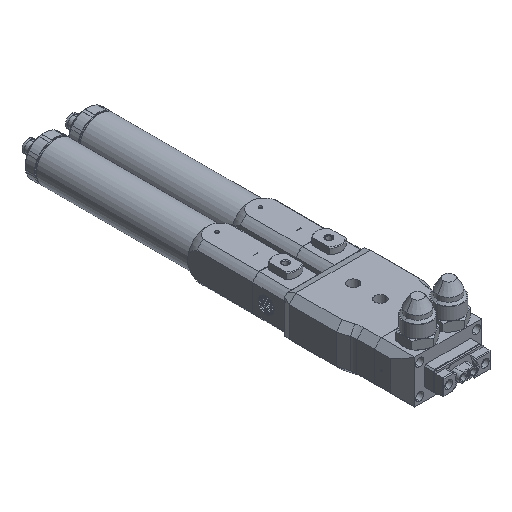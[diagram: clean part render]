
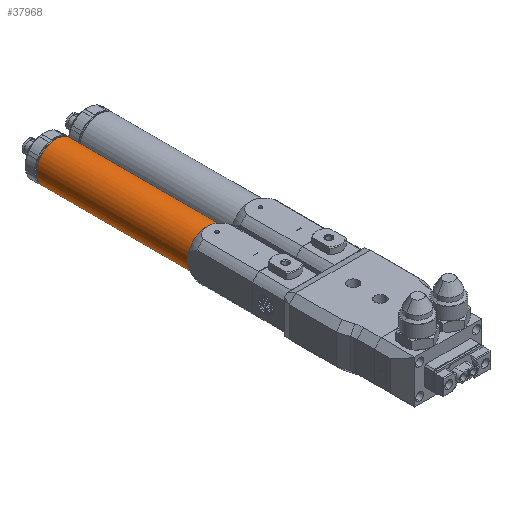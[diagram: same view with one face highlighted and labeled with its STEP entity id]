
A CAD part, isometric view. The second image highlights one B-rep face of the part: STEP entity #37968.
In plain terms, the highlighted cylindrical face has radius 14.5 mm (diameter 29 mm), a full revolution.
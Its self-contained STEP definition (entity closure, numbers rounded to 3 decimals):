
#593 = EDGE_CURVE ( 'NONE', #46082, #18058, #23000, .T. ) ;
#2161 = ORIENTED_EDGE ( 'NONE', *, *, #21573, .T. ) ;
#2264 = CARTESIAN_POINT ( 'NONE',  ( -10.38, 35.604, 987.103 ) ) ;
#2562 = ORIENTED_EDGE ( 'NONE', *, *, #56589, .T. ) ;
#3026 = DIRECTION ( 'NONE',  ( 0., 0., -1. ) ) ;
#5500 = CARTESIAN_POINT ( 'NONE',  ( -10.38, 147.404, 972.603 ) ) ;
#5966 = CIRCLE ( 'NONE', #7245, 14.5 ) ;
#6618 = EDGE_CURVE ( 'NONE', #52875, #66282, #66950, .T. ) ;
#7245 = AXIS2_PLACEMENT_3D ( 'NONE', #2264, #26001, #3026 ) ;
#12027 = CARTESIAN_POINT ( 'NONE',  ( -24.88, 35.604, 987.103 ) ) ;
#14020 = CARTESIAN_POINT ( 'NONE',  ( -10.38, 31.667, 987.103 ) ) ;
#15179 = DIRECTION ( 'NONE',  ( 0., -1., 0. ) ) ;
#16606 = DIRECTION ( 'NONE',  ( 0., 0., -1. ) ) ;
#18058 = VERTEX_POINT ( 'NONE', #24593 ) ;
#18760 = ORIENTED_EDGE ( 'NONE', *, *, #593, .T. ) ;
#20506 = AXIS2_PLACEMENT_3D ( 'NONE', #33039, #21358, #39251 ) ;
#20909 = CARTESIAN_POINT ( 'NONE',  ( -10.38, 147.404, 1001.603 ) ) ;
#21249 = ORIENTED_EDGE ( 'NONE', *, *, #48519, .T. ) ;
#21358 = DIRECTION ( 'NONE',  ( 0., 1., 0. ) ) ;
#21573 = EDGE_CURVE ( 'NONE', #48113, #46082, #66945, .T. ) ;
#22756 = AXIS2_PLACEMENT_3D ( 'NONE', #75401, #69938, #64073 ) ;
#23000 = CIRCLE ( 'NONE', #20506, 14.5 ) ;
#24593 = CARTESIAN_POINT ( 'NONE',  ( 4.12, 35.604, 987.103 ) ) ;
#26001 = DIRECTION ( 'NONE',  ( 0., 1., 0. ) ) ;
#26472 = DIRECTION ( 'NONE',  ( 0., 0., -1. ) ) ;
#31398 = CARTESIAN_POINT ( 'NONE',  ( -10.38, 35.604, 972.603 ) ) ;
#31553 = CARTESIAN_POINT ( 'NONE',  ( -10.38, 147.404, 987.103 ) ) ;
#31593 = CIRCLE ( 'NONE', #62679, 14.5 ) ;
#33039 = CARTESIAN_POINT ( 'NONE',  ( -10.38, 35.604, 987.103 ) ) ;
#34883 = AXIS2_PLACEMENT_3D ( 'NONE', #14020, #15179, #26472 ) ;
#35853 = AXIS2_PLACEMENT_3D ( 'NONE', #47440, #46293, #51754 ) ;
#37968 = ADVANCED_FACE ( 'NONE', ( #43597, #61504 ), #44755, .T. ) ;
#39251 = DIRECTION ( 'NONE',  ( 0., 0., -1. ) ) ;
#40800 = AXIS2_PLACEMENT_3D ( 'NONE', #31553, #43618, #60765 ) ;
#43575 = ORIENTED_EDGE ( 'NONE', *, *, #72404, .T. ) ;
#43597 = FACE_OUTER_BOUND ( 'NONE', #48441, .T. ) ;
#43618 = DIRECTION ( 'NONE',  ( 0., -1., 0. ) ) ;
#43690 = VERTEX_POINT ( 'NONE', #31398 ) ;
#44755 = CYLINDRICAL_SURFACE ( 'NONE', #34883, 14.5 ) ;
#46082 = VERTEX_POINT ( 'NONE', #76658 ) ;
#46293 = DIRECTION ( 'NONE',  ( 0., 1., 0. ) ) ;
#47440 = CARTESIAN_POINT ( 'NONE',  ( -10.38, 35.604, 987.103 ) ) ;
#47524 = ORIENTED_EDGE ( 'NONE', *, *, #6618, .T. ) ;
#48113 = VERTEX_POINT ( 'NONE', #12027 ) ;
#48441 = EDGE_LOOP ( 'NONE', ( #43575, #2562, #2161, #18760 ) ) ;
#48519 = EDGE_CURVE ( 'NONE', #66282, #52875, #31593, .T. ) ;
#51754 = DIRECTION ( 'NONE',  ( 0., 0., -1. ) ) ;
#52875 = VERTEX_POINT ( 'NONE', #20909 ) ;
#56589 = EDGE_CURVE ( 'NONE', #43690, #48113, #5966, .T. ) ;
#58619 = CARTESIAN_POINT ( 'NONE',  ( -10.38, 147.404, 987.103 ) ) ;
#58755 = CIRCLE ( 'NONE', #22756, 14.5 ) ;
#60765 = DIRECTION ( 'NONE',  ( 0., 0., -1. ) ) ;
#61504 = FACE_OUTER_BOUND ( 'NONE', #62868, .T. ) ;
#62679 = AXIS2_PLACEMENT_3D ( 'NONE', #58619, #70363, #16606 ) ;
#62868 = EDGE_LOOP ( 'NONE', ( #47524, #21249 ) ) ;
#64073 = DIRECTION ( 'NONE',  ( 0., 0., -1. ) ) ;
#66282 = VERTEX_POINT ( 'NONE', #5500 ) ;
#66945 = CIRCLE ( 'NONE', #35853, 14.5 ) ;
#66950 = CIRCLE ( 'NONE', #40800, 14.5 ) ;
#69938 = DIRECTION ( 'NONE',  ( 0., 1., 0. ) ) ;
#70363 = DIRECTION ( 'NONE',  ( 0., -1., 0. ) ) ;
#72404 = EDGE_CURVE ( 'NONE', #18058, #43690, #58755, .T. ) ;
#75401 = CARTESIAN_POINT ( 'NONE',  ( -10.38, 35.604, 987.103 ) ) ;
#76658 = CARTESIAN_POINT ( 'NONE',  ( -10.38, 35.604, 1001.603 ) ) ;
